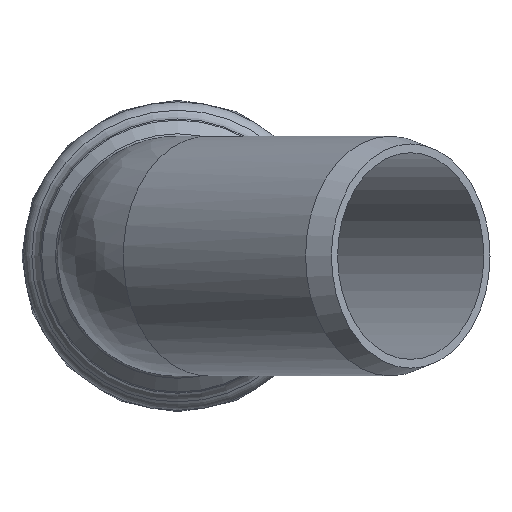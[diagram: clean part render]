
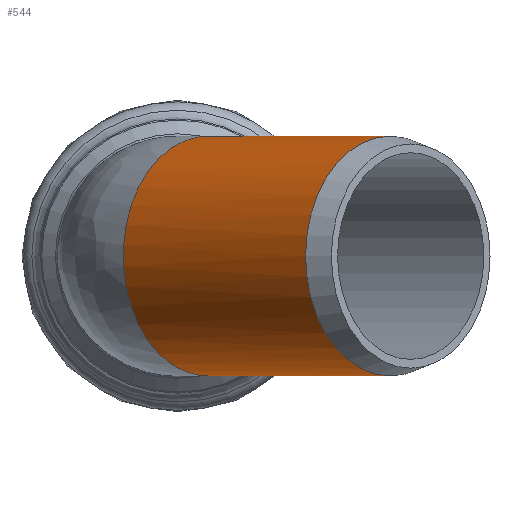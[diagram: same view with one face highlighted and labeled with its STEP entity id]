
A CAD part, front view. The second image highlights one B-rep face of the part: STEP entity #544.
In plain terms, the highlighted cylindrical face has radius 29.1 mm (diameter 58.2 mm), a full revolution.
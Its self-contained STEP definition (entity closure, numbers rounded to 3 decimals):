
#36=ELLIPSE('',#606,31.824,29.1);
#37=ELLIPSE('',#608,31.824,29.1);
#40=CYLINDRICAL_SURFACE('',#605,29.1);
#55=FACE_OUTER_BOUND('',#90,.T.);
#90=EDGE_LOOP('',(#368,#369,#370,#371,#372,#373,#374));
#124=LINE('',#937,#137);
#137=VECTOR('',#719,29.1);
#150=CIRCLE('',#601,29.1);
#151=CIRCLE('',#602,29.1);
#153=CIRCLE('',#607,29.1);
#218=VERTEX_POINT('',#927);
#219=VERTEX_POINT('',#929);
#221=VERTEX_POINT('',#936);
#222=VERTEX_POINT('',#938);
#223=VERTEX_POINT('',#940);
#275=EDGE_CURVE('',#218,#219,#150,.T.);
#276=EDGE_CURVE('',#219,#218,#151,.T.);
#278=EDGE_CURVE('',#219,#221,#124,.T.);
#279=EDGE_CURVE('',#222,#221,#36,.T.);
#280=EDGE_CURVE('',#222,#223,#153,.T.);
#281=EDGE_CURVE('',#221,#223,#37,.T.);
#368=ORIENTED_EDGE('',*,*,#275,.F.);
#369=ORIENTED_EDGE('',*,*,#276,.F.);
#370=ORIENTED_EDGE('',*,*,#278,.T.);
#371=ORIENTED_EDGE('',*,*,#279,.F.);
#372=ORIENTED_EDGE('',*,*,#280,.T.);
#373=ORIENTED_EDGE('',*,*,#281,.F.);
#374=ORIENTED_EDGE('',*,*,#278,.F.);
#544=ADVANCED_FACE('',(#55),#40,.T.);
#601=AXIS2_PLACEMENT_3D('',#930,#709,#710);
#602=AXIS2_PLACEMENT_3D('',#931,#711,#712);
#605=AXIS2_PLACEMENT_3D('',#935,#717,#718);
#606=AXIS2_PLACEMENT_3D('',#939,#720,#721);
#607=AXIS2_PLACEMENT_3D('',#941,#722,#723);
#608=AXIS2_PLACEMENT_3D('',#942,#724,#725);
#709=DIRECTION('center_axis',(0.707,-0.707,0.));
#710=DIRECTION('ref_axis',(0.707,0.707,0.));
#711=DIRECTION('center_axis',(0.707,-0.707,0.));
#712=DIRECTION('ref_axis',(0.707,0.707,0.));
#717=DIRECTION('center_axis',(0.707,-0.707,0.));
#718=DIRECTION('ref_axis',(-0.707,-0.707,0.));
#719=DIRECTION('',(-0.707,0.707,0.));
#720=DIRECTION('center_axis',(-0.36,0.933,0.));
#721=DIRECTION('ref_axis',(0.933,0.36,0.));
#722=DIRECTION('center_axis',(0.707,-0.707,0.));
#723=DIRECTION('ref_axis',(0.707,0.707,0.));
#724=DIRECTION('center_axis',(-0.36,0.933,0.));
#725=DIRECTION('ref_axis',(0.933,0.36,0.));
#927=CARTESIAN_POINT('',(31.042,-72.196,0.));
#929=CARTESIAN_POINT('',(72.196,-31.042,0.));
#930=CARTESIAN_POINT('Origin',(51.619,-51.619,0.));
#931=CARTESIAN_POINT('Origin',(51.619,-51.619,0.));
#935=CARTESIAN_POINT('Origin',(31.961,-31.961,0.));
#936=CARTESIAN_POINT('',(29.686,11.468,0.));
#937=CARTESIAN_POINT('',(52.538,-11.384,0.));
#938=CARTESIAN_POINT('',(23.966,9.258,17.172));
#939=CARTESIAN_POINT('Origin',(0.,0.,
0.));
#940=CARTESIAN_POINT('',(23.966,9.258,-17.172));
#941=CARTESIAN_POINT('Origin',(7.354,-7.354,0.));
#942=CARTESIAN_POINT('Origin',(0.,0.,
0.));
